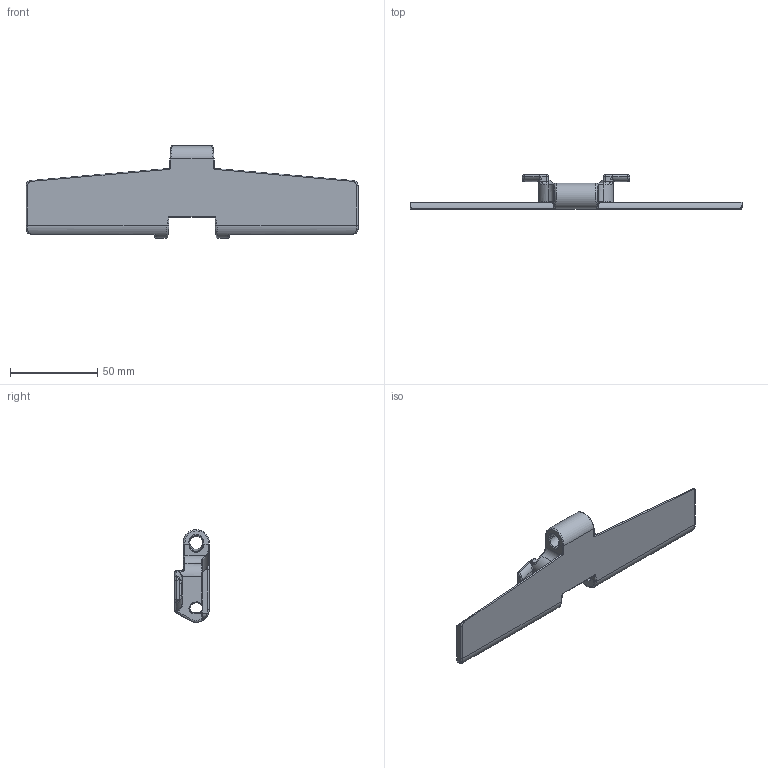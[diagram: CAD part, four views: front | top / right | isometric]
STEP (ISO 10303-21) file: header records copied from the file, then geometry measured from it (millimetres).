
FILE_DESCRIPTION((''),'2;1');
FILE_NAME('P295','2012-08-08T',('mth'),(''),'PRO/ENGINEER BY PARAMETRIC TECHNOLOGY CORPORATION, 2012130','PRO/ENGINEER BY PARAMETRIC TECHNOLOGY CORPORATION, 2012130','');
FILE_SCHEMA(('AUTOMOTIVE_DESIGN { 1 0 10303 214 1 1 1 1 }'));
Products named in the file (1): P295
Bounding box: 190.45 x 19.88 x 53.09 mm (x, y, z)
Volume: 33915.9 mm3; surface area: 18837.8 mm2
Topology: 1 solids, 1 shells, 1046 faces, 2779 edges, 1768 vertices
Faces by surface type: plane 731, cylinder 137, bspline 108, torus 38, sphere 26, cone 6
Entity records: 53433 total; most frequent: CARTESIAN_POINT 19445, ORIENTED_EDGE 5558, DIRECTION 4697, PRESENTATION_STYLE_ASSIGNMENT 2780, STYLED_ITEM 2780, CURVE_STYLE 2779, EDGE_CURVE 2779, VECTOR 2169
